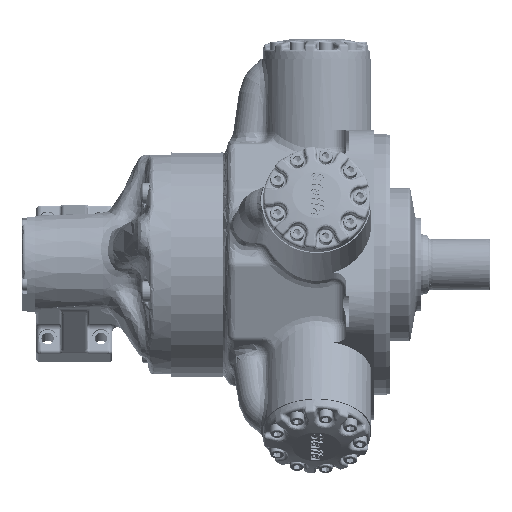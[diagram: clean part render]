
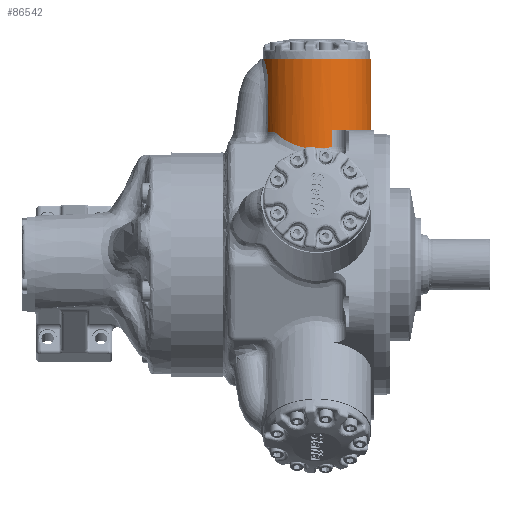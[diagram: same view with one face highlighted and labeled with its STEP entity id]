
A CAD part, front view. The second image highlights one B-rep face of the part: STEP entity #86542.
In plain terms, the highlighted cylindrical face has radius 63.5 mm (diameter 127 mm), a partial arc.
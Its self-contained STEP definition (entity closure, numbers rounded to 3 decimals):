
#2554=ELLIPSE('',#94097,84.245,63.5);
#2578=ELLIPSE('',#94343,84.245,63.5);
#4127=B_SPLINE_CURVE_WITH_KNOTS('',3,(#179114,#179115,#179116,#179117,#179118,
#179119,#179120,#179121,#179122),.UNSPECIFIED.,.F.,.F.,(4,1,1,1,1,1,4),
(-4.717,-3.884,-3.398,-2.913,
-1.942,-0.971,0.),.UNSPECIFIED.);
#4129=B_SPLINE_CURVE_WITH_KNOTS('',3,(#179149,#179150,#179151,#179152,#179153,
#179154,#179155,#179156,#179157,#179158,#179159,#179160),.UNSPECIFIED.,
 .F.,.F.,(4,1,1,1,1,1,1,1,1,4),(-13.593,-12.865,-12.622,
-11.651,-10.68,-10.195,-9.831,
-9.709,-9.386,-8.877),.UNSPECIFIED.);
#4248=B_SPLINE_CURVE_WITH_KNOTS('',3,(#183509,#183510,#183511,#183512),
 .UNSPECIFIED.,.F.,.F.,(4,4),(-4.385,0.),.UNSPECIFIED.);
#4249=B_SPLINE_CURVE_WITH_KNOTS('',3,(#183515,#183516,#183517,#183518),
 .UNSPECIFIED.,.F.,.F.,(4,4),(-8.224,-3.839),
 .UNSPECIFIED.);
#7067=LINE('',#182648,#10651);
#7081=LINE('',#182725,#10665);
#10651=VECTOR('',#109907,10.);
#10665=VECTOR('',#110009,10.);
#14028=CYLINDRICAL_SURFACE('',#94341,63.5);
#20469=FACE_OUTER_BOUND('',#26942,.T.);
#26942=EDGE_LOOP('',(#65939,#65940,#65941,#65942,#65943,#65944,#65945,#65946,
#65947,#65948,#65949,#65950));
#32628=CIRCLE('',#93860,63.5);
#32684=CIRCLE('',#93965,63.5);
#32766=CIRCLE('',#94102,63.5);
#32885=CIRCLE('',#94342,63.5);
#38464=VERTEX_POINT('',#178286);
#38465=VERTEX_POINT('',#178287);
#38503=VERTEX_POINT('',#179113);
#38506=VERTEX_POINT('',#179147);
#38585=VERTEX_POINT('',#179504);
#38586=VERTEX_POINT('',#179506);
#38688=VERTEX_POINT('',#180860);
#38700=VERTEX_POINT('',#181015);
#38711=VERTEX_POINT('',#181278);
#38713=VERTEX_POINT('',#181284);
#38774=VERTEX_POINT('',#182646);
#38811=VERTEX_POINT('',#183508);
#47684=EDGE_CURVE('',#38464,#38465,#32628,.T.);
#47727=EDGE_CURVE('',#38464,#38503,#4127,.T.);
#47731=EDGE_CURVE('',#38506,#38465,#4129,.T.);
#47857=EDGE_CURVE('',#38586,#38585,#32684,.T.);
#48053=EDGE_CURVE('',#38700,#38711,#2554,.T.);
#48057=EDGE_CURVE('',#38713,#38700,#32766,.T.);
#48179=EDGE_CURVE('',#38586,#38774,#7067,.T.);
#48217=EDGE_CURVE('',#38711,#38585,#7081,.T.);
#48291=EDGE_CURVE('',#38811,#38506,#4248,.T.);
#48292=EDGE_CURVE('',#38688,#38811,#32885,.T.);
#48293=EDGE_CURVE('',#38774,#38688,#2578,.T.);
#48294=EDGE_CURVE('',#38503,#38713,#4249,.T.);
#65939=ORIENTED_EDGE('',*,*,#47684,.T.);
#65940=ORIENTED_EDGE('',*,*,#47731,.F.);
#65941=ORIENTED_EDGE('',*,*,#48291,.F.);
#65942=ORIENTED_EDGE('',*,*,#48292,.F.);
#65943=ORIENTED_EDGE('',*,*,#48293,.F.);
#65944=ORIENTED_EDGE('',*,*,#48179,.F.);
#65945=ORIENTED_EDGE('',*,*,#47857,.T.);
#65946=ORIENTED_EDGE('',*,*,#48217,.F.);
#65947=ORIENTED_EDGE('',*,*,#48053,.F.);
#65948=ORIENTED_EDGE('',*,*,#48057,.F.);
#65949=ORIENTED_EDGE('',*,*,#48294,.F.);
#65950=ORIENTED_EDGE('',*,*,#47727,.F.);
#86542=ADVANCED_FACE('',(#20469),#14028,.T.);
#93860=AXIS2_PLACEMENT_3D('',#178288,#109063,#109064);
#93965=AXIS2_PLACEMENT_3D('',#179507,#109361,#109362);
#94097=AXIS2_PLACEMENT_3D('',#181279,#109664,#109665);
#94102=AXIS2_PLACEMENT_3D('',#181286,#109674,#109675);
#94341=AXIS2_PLACEMENT_3D('',#183507,#110199,#110200);
#94342=AXIS2_PLACEMENT_3D('',#183513,#110201,#110202);
#94343=AXIS2_PLACEMENT_3D('',#183514,#110203,#110204);
#109063=DIRECTION('center_axis',(0.,0.,-1.));
#109064=DIRECTION('ref_axis',(-1.,0.,0.));
#109361=DIRECTION('center_axis',(0.,0.,1.));
#109362=DIRECTION('ref_axis',(-1.,0.,0.));
#109664=DIRECTION('center_axis',(0.,-0.657,-0.754));
#109665=DIRECTION('ref_axis',(0.,0.754,-0.657));
#109674=DIRECTION('center_axis',(0.,0.,-1.));
#109675=DIRECTION('ref_axis',(-0.851,0.525,0.));
#109907=DIRECTION('',(0.,0.,-1.));
#110009=DIRECTION('',(0.,0.,1.));
#110199=DIRECTION('center_axis',(0.,0.,1.));
#110200=DIRECTION('ref_axis',(-1.,0.,0.));
#110201=DIRECTION('center_axis',(0.,0.,-1.));
#110202=DIRECTION('ref_axis',(-0.851,-0.525,0.));
#110203=DIRECTION('center_axis',(0.,0.657,-0.754));
#110204=DIRECTION('ref_axis',(0.,-0.754,-0.657));
#178286=CARTESIAN_POINT('',(-61.327,16.471,238.125));
#178287=CARTESIAN_POINT('',(-61.327,-16.471,238.125));
#178288=CARTESIAN_POINT('Origin',(0.,0.,238.125));
#179113=CARTESIAN_POINT('',(-55.882,30.158,197.011));
#179114=CARTESIAN_POINT('Ctrl Pts',(-61.321,16.468,
238.123));
#179115=CARTESIAN_POINT('Ctrl Pts',(-60.803,18.408,
236.712));
#179116=CARTESIAN_POINT('Ctrl Pts',(-59.897,21.237,
234.051));
#179117=CARTESIAN_POINT('Ctrl Pts',(-58.646,24.388,
229.527));
#179118=CARTESIAN_POINT('Ctrl Pts',(-57.441,27.133,
224.11));
#179119=CARTESIAN_POINT('Ctrl Pts',(-56.342,29.3,
216.399));
#179120=CARTESIAN_POINT('Ctrl Pts',(-55.9,30.123,
206.729));
#179121=CARTESIAN_POINT('Ctrl Pts',(-55.885,30.151,
200.247));
#179122=CARTESIAN_POINT('Ctrl Pts',(-55.882,30.158,197.011));
#179147=CARTESIAN_POINT('',(-55.882,-30.158,197.011));
#179149=CARTESIAN_POINT('Ctrl Pts',(-55.882,-30.158,
197.011));
#179150=CARTESIAN_POINT('Ctrl Pts',(-55.884,-30.153,
199.438));
#179151=CARTESIAN_POINT('Ctrl Pts',(-55.892,-30.139,
202.676));
#179152=CARTESIAN_POINT('Ctrl Pts',(-56.009,-29.921,
209.14));
#179153=CARTESIAN_POINT('Ctrl Pts',(-56.348,-29.29,
216.414));
#179154=CARTESIAN_POINT('Ctrl Pts',(-57.431,-27.149,
224.077));
#179155=CARTESIAN_POINT('Ctrl Pts',(-58.579,-24.546,
229.213));
#179156=CARTESIAN_POINT('Ctrl Pts',(-59.232,-22.903,
231.656));
#179157=CARTESIAN_POINT('Ctrl Pts',(-59.788,-21.407,
233.569));
#179158=CARTESIAN_POINT('Ctrl Pts',(-60.454,-19.497,
235.687));
#179159=CARTESIAN_POINT('Ctrl Pts',(-61.009,-17.654,
237.264));
#179160=CARTESIAN_POINT('Ctrl Pts',(-61.326,-16.471,
238.125));
#179504=CARTESIAN_POINT('',(17.595,61.014,155.665));
#179506=CARTESIAN_POINT('',(17.595,-61.014,155.665));
#179507=CARTESIAN_POINT('Origin',(0.,0.,155.665));
#180860=CARTESIAN_POINT('',(-48.087,-41.471,153.162));
#181015=CARTESIAN_POINT('',(-48.087,41.471,153.162));
#181278=CARTESIAN_POINT('',(17.595,61.014,136.124));
#181279=CARTESIAN_POINT('Origin',(0.,0.,189.319));
#181284=CARTESIAN_POINT('',(-56.058,29.83,153.162));
#181286=CARTESIAN_POINT('Origin',(0.,0.,153.162));
#182646=CARTESIAN_POINT('',(17.595,-61.014,136.124));
#182648=CARTESIAN_POINT('',(17.595,-61.014,0.));
#182725=CARTESIAN_POINT('',(17.595,61.014,0.));
#183507=CARTESIAN_POINT('Origin',(0.,0.,0.));
#183508=CARTESIAN_POINT('',(-56.058,-29.83,153.162));
#183509=CARTESIAN_POINT('Ctrl Pts',(-56.058,-29.83,
153.162));
#183510=CARTESIAN_POINT('Ctrl Pts',(-55.93,-30.068,
167.776));
#183511=CARTESIAN_POINT('Ctrl Pts',(-55.865,-30.188,
182.394));
#183512=CARTESIAN_POINT('Ctrl Pts',(-55.882,-30.158,
197.011));
#183513=CARTESIAN_POINT('Origin',(0.,0.,153.162));
#183514=CARTESIAN_POINT('Origin',(0.,0.,189.319));
#183515=CARTESIAN_POINT('Ctrl Pts',(-55.882,30.158,197.011));
#183516=CARTESIAN_POINT('Ctrl Pts',(-55.865,30.188,
182.394));
#183517=CARTESIAN_POINT('Ctrl Pts',(-55.93,30.068,167.776));
#183518=CARTESIAN_POINT('Ctrl Pts',(-56.058,29.83,153.162));
